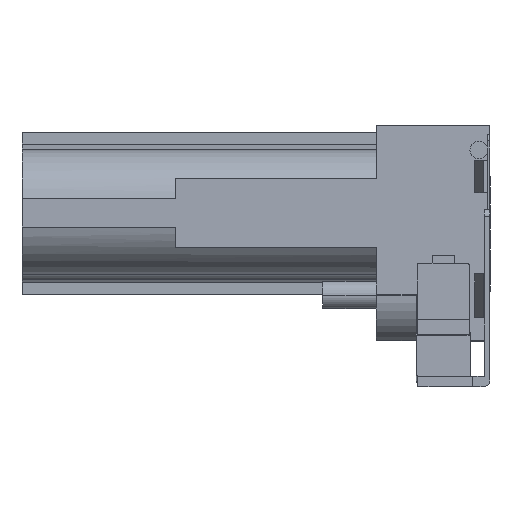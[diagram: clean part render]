
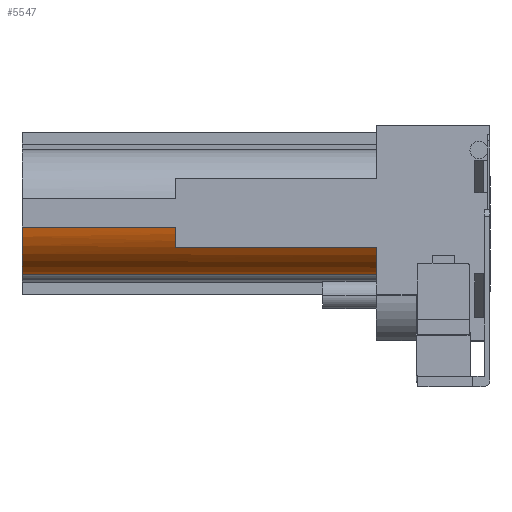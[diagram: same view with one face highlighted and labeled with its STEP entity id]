
A CAD part, front view. The second image highlights one B-rep face of the part: STEP entity #5547.
In plain terms, the highlighted cylindrical face has radius 23 mm (diameter 46 mm), a partial arc.
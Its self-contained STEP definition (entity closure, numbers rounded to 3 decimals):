
#1006 = FACE_OUTER_BOUND ( 'NONE', #3447, .T. ) ;
#1007 = CYLINDRICAL_SURFACE ( 'NONE', #3091, 23. ) ;
#1396 = CARTESIAN_POINT ( 'NONE',  ( -41.25, 443.575, 13.594 ) ) ;
#1397 = DIRECTION ( 'NONE',  ( -1., 0., 0. ) ) ;
#1398 = DIRECTION ( 'NONE',  ( 0., -1., 0. ) ) ;
#1599 = CARTESIAN_POINT ( 'NONE',  ( -41.25, 424.204, 1.194 ) ) ;
#1602 = CARTESIAN_POINT ( 'NONE',  ( -41.25, 438.356, -8.806 ) ) ;
#1619 = CARTESIAN_POINT ( 'NONE',  ( -114.25, 421.135, 8.55 ) ) ;
#1621 = CARTESIAN_POINT ( 'NONE',  ( -114.25, 424.204, 1.194 ) ) ;
#1648 = CARTESIAN_POINT ( 'NONE',  ( -169.95, 438.356, -8.806 ) ) ;
#1708 = CARTESIAN_POINT ( 'NONE',  ( -169.95, 421.135, 8.55 ) ) ;
#3091 = AXIS2_PLACEMENT_3D ( 'NONE', #1396, #1397, #1398 ) ;
#3447 = EDGE_LOOP ( 'NONE', ( #5830, #5831, #5832, #5833, #5834, #5835 ) ) ;
#4107 = LINE ( 'NONE', #5881, #4108 ) ;
#4108 = VECTOR ( 'NONE', #6003, 1000. ) ;
#4109 = LINE ( 'NONE', #5865, #4111 ) ;
#4110 = CIRCLE ( 'NONE', #5127, 23. ) ;
#4111 = VECTOR ( 'NONE', #5920, 1000. ) ;
#4112 = LINE ( 'NONE', #5975, #4114 ) ;
#4113 = CIRCLE ( 'NONE', #5128, 23. ) ;
#4114 = VECTOR ( 'NONE', #5988, 1000. ) ;
#4134 = CIRCLE ( 'NONE', #5131, 23. ) ;
#4621 = EDGE_CURVE ( 'NONE', #6308, #6354, #4107, .T. ) ;
#4622 = EDGE_CURVE ( 'NONE', #6414, #6354, #4110, .T. ) ;
#4623 = EDGE_CURVE ( 'NONE', #6325, #6414, #4109, .T. ) ;
#4624 = EDGE_CURVE ( 'NONE', #6325, #6327, #4113, .T. ) ;
#4625 = EDGE_CURVE ( 'NONE', #6327, #6305, #4112, .T. ) ;
#4636 = EDGE_CURVE ( 'NONE', #6305, #6308, #4134, .T. ) ;
#5127 = AXIS2_PLACEMENT_3D ( 'NONE', #5896, #5980, #5971 ) ;
#5128 = AXIS2_PLACEMENT_3D ( 'NONE', #5979, #5910, #5925 ) ;
#5131 = AXIS2_PLACEMENT_3D ( 'NONE', #5964, #5961, #5959 ) ;
#5547 = ADVANCED_FACE ( 'NONE', ( #1006 ), #1007, .T. ) ;
#5830 = ORIENTED_EDGE ( 'NONE', *, *, #4625, .F. ) ;
#5831 = ORIENTED_EDGE ( 'NONE', *, *, #4624, .F. ) ;
#5832 = ORIENTED_EDGE ( 'NONE', *, *, #4623, .T. ) ;
#5833 = ORIENTED_EDGE ( 'NONE', *, *, #4622, .T. ) ;
#5834 = ORIENTED_EDGE ( 'NONE', *, *, #4621, .F. ) ;
#5835 = ORIENTED_EDGE ( 'NONE', *, *, #4636, .F. ) ;
#5865 = CARTESIAN_POINT ( 'NONE',  ( -41.25, 421.135, 8.55 ) ) ;
#5881 = CARTESIAN_POINT ( 'NONE',  ( -41.25, 438.356, -8.806 ) ) ;
#5896 = CARTESIAN_POINT ( 'NONE',  ( -169.95, 443.575, 13.594 ) ) ;
#5910 = DIRECTION ( 'NONE',  ( 1., 0., 0. ) ) ;
#5920 = DIRECTION ( 'NONE',  ( -1., 0., 0. ) ) ;
#5925 = DIRECTION ( 'NONE',  ( 0., -1., 0. ) ) ;
#5959 = DIRECTION ( 'NONE',  ( 0., -1., 0. ) ) ;
#5961 = DIRECTION ( 'NONE',  ( 1., 0., 0. ) ) ;
#5964 = CARTESIAN_POINT ( 'NONE',  ( -41.25, 443.575, 13.594 ) ) ;
#5971 = DIRECTION ( 'NONE',  ( 0., -1., 0. ) ) ;
#5975 = CARTESIAN_POINT ( 'NONE',  ( -114.25, 424.204, 1.194 ) ) ;
#5979 = CARTESIAN_POINT ( 'NONE',  ( -114.25, 443.575, 13.594 ) ) ;
#5980 = DIRECTION ( 'NONE',  ( 1., 0., 0. ) ) ;
#5988 = DIRECTION ( 'NONE',  ( 1., 0., 0. ) ) ;
#6003 = DIRECTION ( 'NONE',  ( -1., 0., 0. ) ) ;
#6305 = VERTEX_POINT ( 'NONE', #1599 ) ;
#6308 = VERTEX_POINT ( 'NONE', #1602 ) ;
#6325 = VERTEX_POINT ( 'NONE', #1619 ) ;
#6327 = VERTEX_POINT ( 'NONE', #1621 ) ;
#6354 = VERTEX_POINT ( 'NONE', #1648 ) ;
#6414 = VERTEX_POINT ( 'NONE', #1708 ) ;
